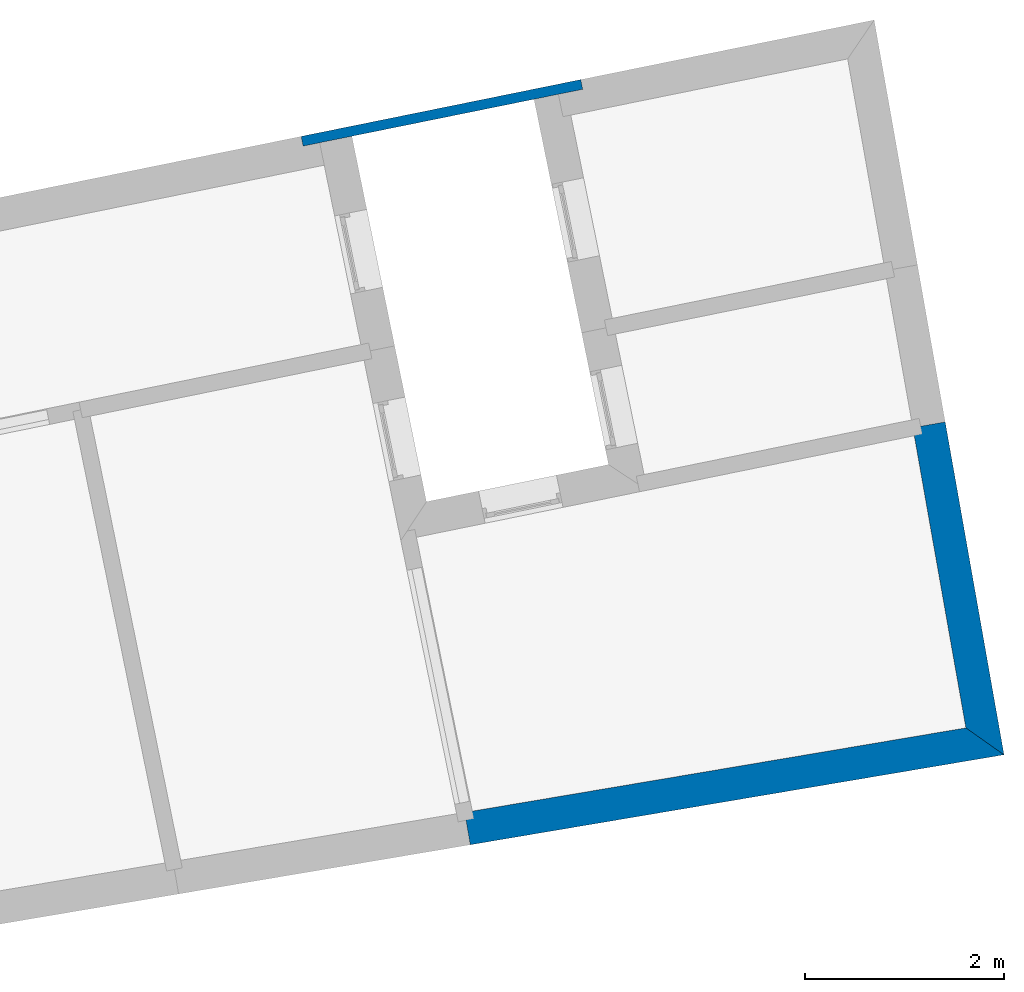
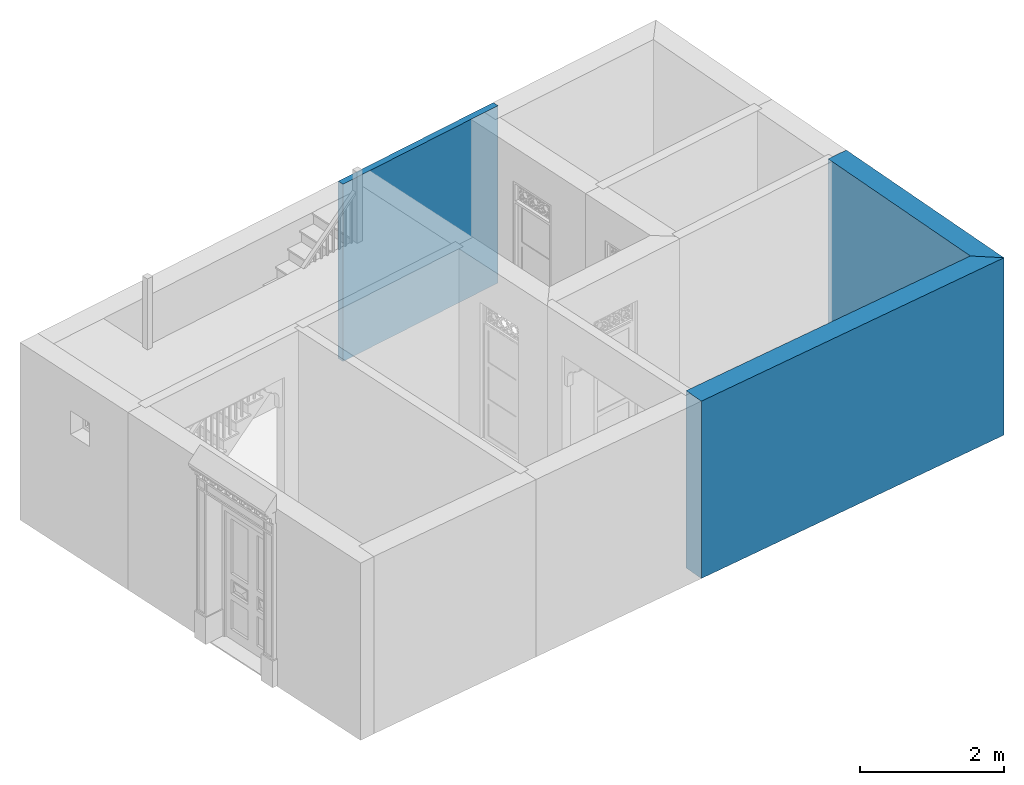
# One storey, part 7 of 11: 3 walls.
"""IFC4 building model written with IfcOpenShell, lengths in metres."""

from ifc_helpers import new_model, si_unit, frame, origin_with_axes, place, context, subcontext, project, spatial, polyline, outline, extrude, material, layer, layer_set, layer_usage, type_object, element, save


model = new_model("IFC4")

# Units and contexts
model_context = context("Model", 3, world=origin_with_axes())
body_context = subcontext(model_context, "Body", "Model", "MODEL_VIEW")
ifc_project = project(units=[si_unit("PLANEANGLEUNIT", "RADIAN"), si_unit("MASSUNIT", "GRAM", prefix="KILO"), si_unit("FORCEUNIT", "NEWTON", prefix="KILO"), si_unit("LENGTHUNIT", "METRE"), si_unit("AREAUNIT", "SQUARE_METRE"), si_unit("VOLUMEUNIT", "CUBIC_METRE")], contexts=[model_context, model_context])

# Site, building, storey
site_placement = place(None, origin_with_axes())
site = spatial("IfcSite", under=ifc_project, at=site_placement, Name="Site plot-7", CompositionType="ELEMENT")
building_placement = place(None, origin_with_axes())
building = spatial("IfcBuilding", under=site, at=building_placement, Name="Building plot-7", CompositionType="ELEMENT")
storey_placement = place(None, origin_with_axes())
storey = spatial("IfcBuildingStorey", under=building, at=storey_placement, Name="plot-7 0", CompositionType="ELEMENT", Elevation=0.0)

# Walls
ifc_material_1 = material(Name="Masonry")
ifc_layer_1 = layer(ifc_material_1, 0.33, ventilated=False)
ifc_layer_set_1 = layer_set([ifc_layer_1], Name="party_0.08_0.25")
ifc_layer_usage_1 = layer_usage(ifc_layer_set_1, "AXIS2", "POSITIVE", -0.25)
wall_type_1 = type_object("IfcWallType", Name="party_0.08_0.25", PredefinedType="SOLIDWALL", material=ifc_layer_set_1)
wall_1_placement = place(storey_placement, frame((-5.22163661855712, 5.46675106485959, 0.0), z_axis=(0.0, 0.0, 1.0), x_axis=(0.986076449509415, 0.166292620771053, 0.0)))
element("IfcWall", 1, at=wall_1_placement, inside=storey, type_object=wall_type_1, material=ifc_layer_usage_1, Name="party", context=body_context, shape_type="SweptSolid", body=[
    extrude(outline(polyline([(-4.56954191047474e-16, 0.0799999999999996), (8.47975353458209e-16, -0.25), (5.44081898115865, -0.25), (5.10822318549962, 0.0800000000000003), (-4.56954191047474e-16, 0.0799999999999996)])), origin_with_axes(), (0.0, 0.0, 1.0), 3.0),
])
wall_2_placement = place(storey_placement, frame((-0.105031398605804, 6.32961894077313, 0.0), z_axis=(0.0, 0.0, 1.0), x_axis=(-0.174013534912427, 0.984743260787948, 0.0)))
element("IfcWall", 2, at=wall_2_placement, inside=storey, type_object=wall_type_1, material=ifc_layer_usage_1, Name="party", context=body_context, shape_type="SweptSolid", body=[
    extrude(outline(polyline([(0.0806292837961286, 0.0800000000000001), (-0.251966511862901, -0.25), (3.14519232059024, -0.25), (3.14519232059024, 0.0799999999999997), (0.0806292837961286, 0.0800000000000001)])), origin_with_axes(), (0.0, 0.0, 1.0), 3.0),
])
ifc_material_2 = material(Name="Masonry")
ifc_layer_2 = layer(ifc_material_2, 0.1, ventilated=False)
ifc_layer_set_2 = layer_set([ifc_layer_2], Name="fence_-0.15_0.25")
ifc_layer_usage_2 = layer_usage(ifc_layer_set_2, "AXIS2", "POSITIVE", -0.25)
wall_type_2 = type_object("IfcWallType", Name="fence_-0.15_0.25", PredefinedType="SOLIDWALL", material=ifc_layer_set_2)
wall_3_placement = place(storey_placement, frame((-4.26374052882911, 12.6163821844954, 0.0), z_axis=(0.0, 0.0, 1.0), x_axis=(-0.97999090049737, -0.199042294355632, 0.0)))
element("IfcWall", 3, at=wall_3_placement, inside=storey, type_object=wall_type_2, material=ifc_layer_usage_2, Name="fence", context=body_context, shape_type="SweptSolid", body=[
    extrude(outline(polyline([(-0.25, -0.150000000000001), (-0.25, -0.250000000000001), (2.61807710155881, -0.249999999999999), (2.61807710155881, -0.149999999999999), (-0.25, -0.150000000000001)])), origin_with_axes(), (0.0, 0.0, 1.0), 3.0),
])

save(model, "model.ifc")
